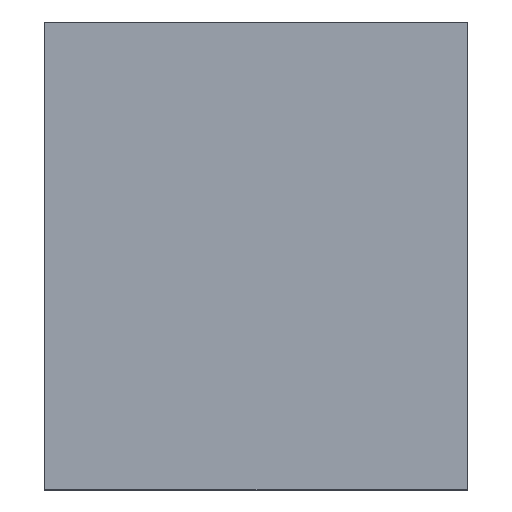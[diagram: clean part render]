
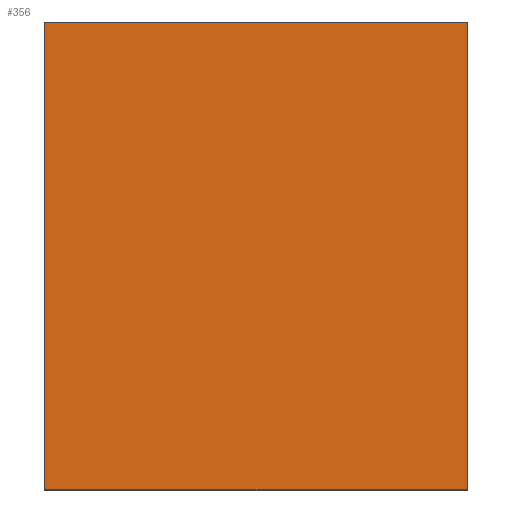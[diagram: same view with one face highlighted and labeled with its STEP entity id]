
A CAD part, top view. The second image highlights one B-rep face of the part: STEP entity #356.
In plain terms, the highlighted planar face has unit normal (0, 0, 1).
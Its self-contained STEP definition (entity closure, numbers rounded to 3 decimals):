
#42 = VERTEX_POINT('',#43);
#43 = CARTESIAN_POINT('',(-28.,-31.,10.));
#50 = PLANE('',#51);
#51 = AXIS2_PLACEMENT_3D('',#52,#53,#54);
#52 = CARTESIAN_POINT('',(-28.,-31.,-10.));
#53 = DIRECTION('',(1.,0.,-0.));
#54 = DIRECTION('',(0.,0.,1.));
#62 = PLANE('',#63);
#63 = AXIS2_PLACEMENT_3D('',#64,#65,#66);
#64 = CARTESIAN_POINT('',(-28.,-31.,-10.));
#65 = DIRECTION('',(-0.,1.,0.));
#66 = DIRECTION('',(0.,0.,1.));
#103 = VERTEX_POINT('',#104);
#104 = CARTESIAN_POINT('',(-28.,31.,10.));
#118 = PLANE('',#119);
#119 = AXIS2_PLACEMENT_3D('',#120,#121,#122);
#120 = CARTESIAN_POINT('',(-28.,31.,-10.));
#121 = DIRECTION('',(-0.,1.,0.));
#122 = DIRECTION('',(0.,0.,1.));
#130 = EDGE_CURVE('',#42,#103,#131,.T.);
#131 = SURFACE_CURVE('',#132,(#136,#143),.PCURVE_S1.);
#132 = LINE('',#133,#134);
#133 = CARTESIAN_POINT('',(-28.,-31.,10.));
#134 = VECTOR('',#135,1.);
#135 = DIRECTION('',(-0.,1.,0.));
#136 = PCURVE('',#50,#137);
#137 = DEFINITIONAL_REPRESENTATION('',(#138),#142);
#138 = LINE('',#139,#140);
#139 = CARTESIAN_POINT('',(20.,0.));
#140 = VECTOR('',#141,1.);
#141 = DIRECTION('',(0.,-1.));
#142 = ( GEOMETRIC_REPRESENTATION_CONTEXT(2) 
PARAMETRIC_REPRESENTATION_CONTEXT() REPRESENTATION_CONTEXT('2D SPACE',''
  ) );
#143 = PCURVE('',#144,#149);
#144 = PLANE('',#145);
#145 = AXIS2_PLACEMENT_3D('',#146,#147,#148);
#146 = CARTESIAN_POINT('',(-28.,-31.,10.));
#147 = DIRECTION('',(0.,0.,1.));
#148 = DIRECTION('',(1.,0.,-0.));
#149 = DEFINITIONAL_REPRESENTATION('',(#150),#154);
#150 = LINE('',#151,#152);
#151 = CARTESIAN_POINT('',(0.,0.));
#152 = VECTOR('',#153,1.);
#153 = DIRECTION('',(0.,1.));
#154 = ( GEOMETRIC_REPRESENTATION_CONTEXT(2) 
PARAMETRIC_REPRESENTATION_CONTEXT() REPRESENTATION_CONTEXT('2D SPACE',''
  ) );
#162 = VERTEX_POINT('',#163);
#163 = CARTESIAN_POINT('',(28.,-31.,10.));
#170 = PLANE('',#171);
#171 = AXIS2_PLACEMENT_3D('',#172,#173,#174);
#172 = CARTESIAN_POINT('',(28.,-31.,-10.));
#173 = DIRECTION('',(1.,0.,-0.));
#174 = DIRECTION('',(0.,0.,1.));
#213 = VERTEX_POINT('',#214);
#214 = CARTESIAN_POINT('',(28.,31.,10.));
#235 = EDGE_CURVE('',#162,#213,#236,.T.);
#236 = SURFACE_CURVE('',#237,(#241,#248),.PCURVE_S1.);
#237 = LINE('',#238,#239);
#238 = CARTESIAN_POINT('',(28.,-31.,10.));
#239 = VECTOR('',#240,1.);
#240 = DIRECTION('',(-0.,1.,0.));
#241 = PCURVE('',#170,#242);
#242 = DEFINITIONAL_REPRESENTATION('',(#243),#247);
#243 = LINE('',#244,#245);
#244 = CARTESIAN_POINT('',(20.,0.));
#245 = VECTOR('',#246,1.);
#246 = DIRECTION('',(0.,-1.));
#247 = ( GEOMETRIC_REPRESENTATION_CONTEXT(2) 
PARAMETRIC_REPRESENTATION_CONTEXT() REPRESENTATION_CONTEXT('2D SPACE',''
  ) );
#248 = PCURVE('',#144,#249);
#249 = DEFINITIONAL_REPRESENTATION('',(#250),#254);
#250 = LINE('',#251,#252);
#251 = CARTESIAN_POINT('',(56.,0.));
#252 = VECTOR('',#253,1.);
#253 = DIRECTION('',(0.,1.));
#254 = ( GEOMETRIC_REPRESENTATION_CONTEXT(2) 
PARAMETRIC_REPRESENTATION_CONTEXT() REPRESENTATION_CONTEXT('2D SPACE',''
  ) );
#281 = EDGE_CURVE('',#42,#162,#282,.T.);
#282 = SURFACE_CURVE('',#283,(#287,#294),.PCURVE_S1.);
#283 = LINE('',#284,#285);
#284 = CARTESIAN_POINT('',(-28.,-31.,10.));
#285 = VECTOR('',#286,1.);
#286 = DIRECTION('',(1.,0.,-0.));
#287 = PCURVE('',#62,#288);
#288 = DEFINITIONAL_REPRESENTATION('',(#289),#293);
#289 = LINE('',#290,#291);
#290 = CARTESIAN_POINT('',(20.,0.));
#291 = VECTOR('',#292,1.);
#292 = DIRECTION('',(0.,1.));
#293 = ( GEOMETRIC_REPRESENTATION_CONTEXT(2) 
PARAMETRIC_REPRESENTATION_CONTEXT() REPRESENTATION_CONTEXT('2D SPACE',''
  ) );
#294 = PCURVE('',#144,#295);
#295 = DEFINITIONAL_REPRESENTATION('',(#296),#300);
#296 = LINE('',#297,#298);
#297 = CARTESIAN_POINT('',(0.,0.));
#298 = VECTOR('',#299,1.);
#299 = DIRECTION('',(1.,0.));
#300 = ( GEOMETRIC_REPRESENTATION_CONTEXT(2) 
PARAMETRIC_REPRESENTATION_CONTEXT() REPRESENTATION_CONTEXT('2D SPACE',''
  ) );
#328 = EDGE_CURVE('',#103,#213,#329,.T.);
#329 = SURFACE_CURVE('',#330,(#334,#341),.PCURVE_S1.);
#330 = LINE('',#331,#332);
#331 = CARTESIAN_POINT('',(-28.,31.,10.));
#332 = VECTOR('',#333,1.);
#333 = DIRECTION('',(1.,0.,-0.));
#334 = PCURVE('',#118,#335);
#335 = DEFINITIONAL_REPRESENTATION('',(#336),#340);
#336 = LINE('',#337,#338);
#337 = CARTESIAN_POINT('',(20.,0.));
#338 = VECTOR('',#339,1.);
#339 = DIRECTION('',(0.,1.));
#340 = ( GEOMETRIC_REPRESENTATION_CONTEXT(2) 
PARAMETRIC_REPRESENTATION_CONTEXT() REPRESENTATION_CONTEXT('2D SPACE',''
  ) );
#341 = PCURVE('',#144,#342);
#342 = DEFINITIONAL_REPRESENTATION('',(#343),#347);
#343 = LINE('',#344,#345);
#344 = CARTESIAN_POINT('',(0.,62.));
#345 = VECTOR('',#346,1.);
#346 = DIRECTION('',(1.,0.));
#347 = ( GEOMETRIC_REPRESENTATION_CONTEXT(2) 
PARAMETRIC_REPRESENTATION_CONTEXT() REPRESENTATION_CONTEXT('2D SPACE',''
  ) );
#356 = ADVANCED_FACE('',(#357),#144,.T.);
#357 = FACE_BOUND('',#358,.T.);
#358 = EDGE_LOOP('',(#359,#360,#361,#362));
#359 = ORIENTED_EDGE('',*,*,#130,.F.);
#360 = ORIENTED_EDGE('',*,*,#281,.T.);
#361 = ORIENTED_EDGE('',*,*,#235,.T.);
#362 = ORIENTED_EDGE('',*,*,#328,.F.);
